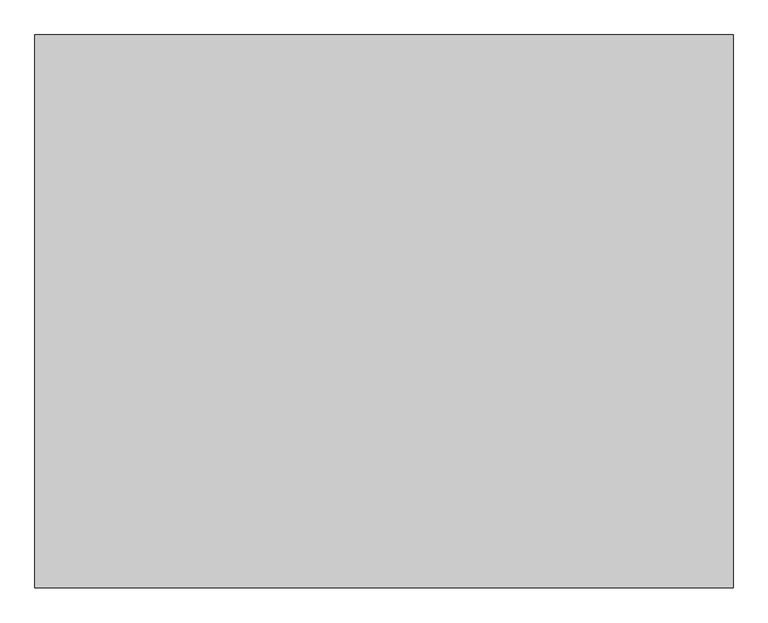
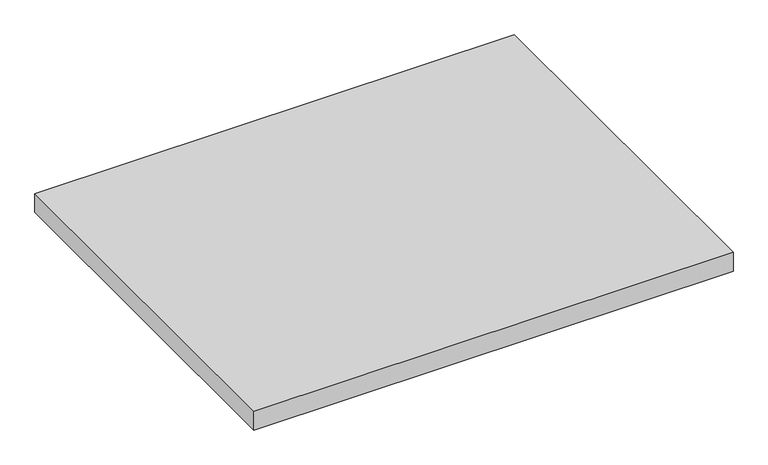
"""IFC4 building model written with IfcOpenShell, lengths in millimetres: proxy geometry, Modèles génériques 8 : Modèles génériques 4."""

from ifc_helpers import new_model, si_unit, frame, origin, place, context, project, spatial, polyline, outline, extrude, source, transform, mapped, element, save


def generic_models_9c1f0b10(model_context):
    return source(origin(), model_context, "Body", "SweptSolid", [
        extrude(outline(polyline([(971.2006973, 3603.736413), (3371.2006973, 3603.736413), (3371.2006973, 1703.736413), (971.2006973, 1703.736413), (971.2006973, 3603.736413)])), frame((0.0, 0.0, -500.0), z_axis=(0.0, 0.0, 1.0), x_axis=(1.0, 0.0, 0.0)), (0.0, 0.0, 1.0), 100.0),
    ])


if __name__ == "__main__":
    model = new_model("IFC4")
    model_context = context("Model", 3, world=origin())
    ifc_project = project(units=[si_unit("LENGTHUNIT", "METRE", prefix="MILLI")], contexts=[model_context])
    site = spatial("IfcSite", under=ifc_project)
    building = spatial("IfcBuilding", under=site)
    placement = place(None, origin())
    generic_models_shape = generic_models_9c1f0b10(model_context)
    element("IfcBuildingElementProxy", 1, Name="Modèles génériques 8 : Modèles génériques 4", ObjectType="Modèles génériques 8 : Modèles génériques 4", at=placement, inside=building, context=model_context, shape_type="MappedRepresentation", body=[
        mapped(generic_models_shape, transform((0.0, 0.0, 0.0), x_axis=(1.0, 0.0, 0.0), y_axis=(0.0, 1.0, 0.0), z_axis=(0.0, 0.0, 1.0))),
    ])
    save(model, "model.ifc")
